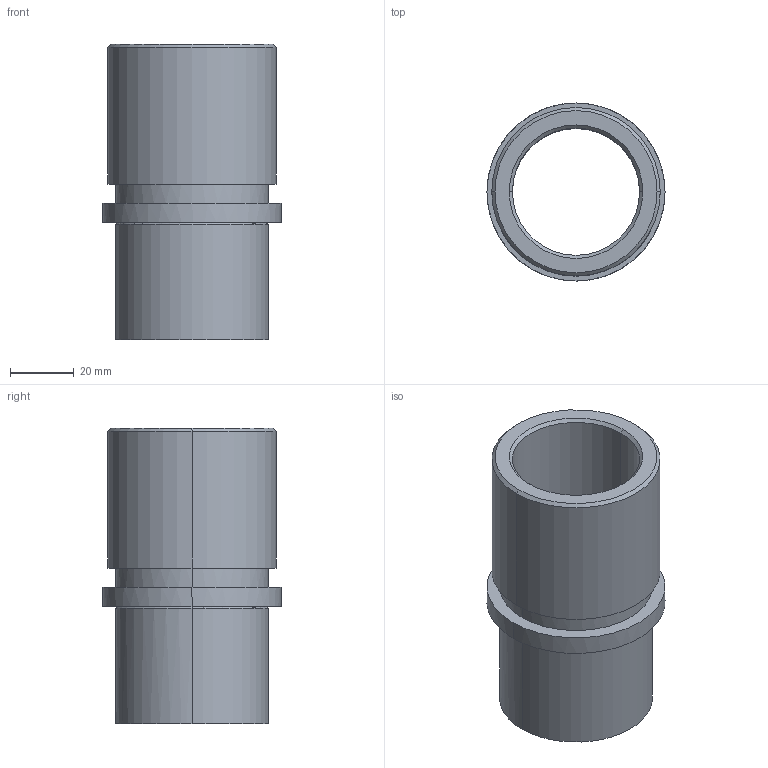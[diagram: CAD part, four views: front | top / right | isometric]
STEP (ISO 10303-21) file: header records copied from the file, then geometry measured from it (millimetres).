
FILE_DESCRIPTION(('CATIA V5 STEP Exchange'),'2;1');
FILE_NAME('C:\Users\Utente\Desktop\IO LAVORO\3D X SITO CF\X SITO\734\734-32.stp','2021-01-16T19:04:03+00:00',('none'),('none'),'CATIA Version 5 Release 20 GA (IN-10)','CATIA V5 STEP AP203','none');
FILE_SCHEMA(('CONFIG_CONTROL_DESIGN'));
Length unit declared in the file: millimetre
Products named in the file (1): 734-32
Assembly tree (1 placements, depth 2):
  734-32
    #58
Bounding box: 56 x 56 x 93 mm (x, y, z)
Volume: 72456.4 mm3; surface area: 29757.3 mm2
Topology: 1 solids, 1 shells, 25 faces, 50 edges, 30 vertices
Faces by surface type: cylinder 10, cone 6, plane 5, torus 4
Entity records: 851 total; most frequent: CARTESIAN_POINT 282, ORIENTED_EDGE 100, DIRECTION 96, AXIS2_PLACEMENT_3D 53, EDGE_CURVE 50, EDGE_LOOP 30, VERTEX_POINT 30, CIRCLE 26
